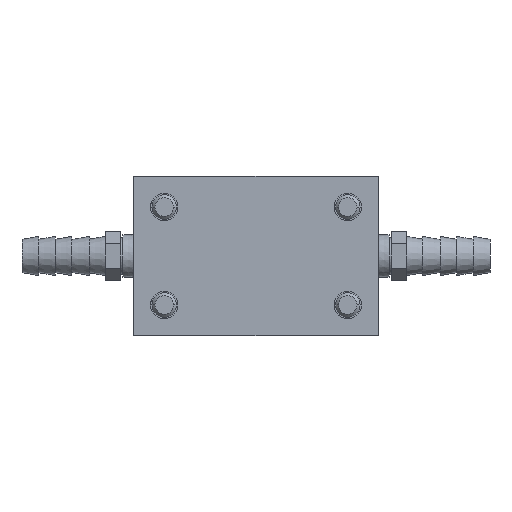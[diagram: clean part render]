
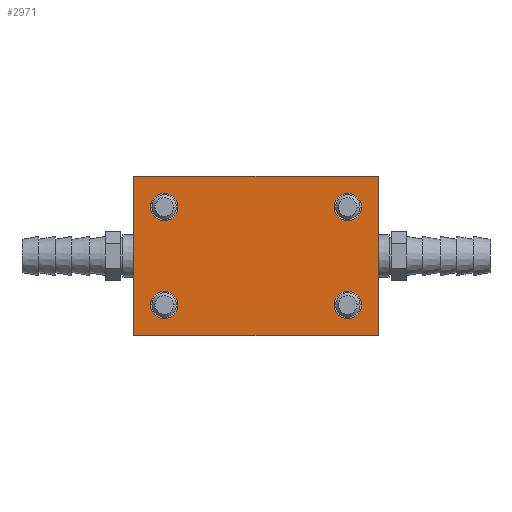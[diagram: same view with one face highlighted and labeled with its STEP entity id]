
A CAD part, left-side view. The second image highlights one B-rep face of the part: STEP entity #2971.
In plain terms, the highlighted planar face has unit normal (-1, 0, 0).
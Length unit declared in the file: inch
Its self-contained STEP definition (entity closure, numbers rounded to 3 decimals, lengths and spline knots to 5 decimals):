
#2709=CARTESIAN_POINT('',(-3.75,-0.9375,-0.5));
#2710=DIRECTION('',(1.,0.,0.));
#2711=DIRECTION('',(0.,-1.,0.));
#2712=AXIS2_PLACEMENT_3D('',#2709,#2710,#2711);
#2714=CARTESIAN_POINT('',(-3.75,-0.9375,-0.5));
#2715=DIRECTION('',(1.,0.,0.));
#2716=DIRECTION('',(0.,1.,0.));
#2717=AXIS2_PLACEMENT_3D('',#2714,#2715,#2716);
#2719=CARTESIAN_POINT('',(-3.75,0.9375,-0.5));
#2720=DIRECTION('',(1.,0.,0.));
#2721=DIRECTION('',(0.,-1.,0.));
#2722=AXIS2_PLACEMENT_3D('',#2719,#2720,#2721);
#2724=CARTESIAN_POINT('',(-3.75,0.9375,-0.5));
#2725=DIRECTION('',(1.,0.,0.));
#2726=DIRECTION('',(0.,1.,0.));
#2727=AXIS2_PLACEMENT_3D('',#2724,#2725,#2726);
#2729=CARTESIAN_POINT('',(-3.75,0.9375,0.5));
#2730=DIRECTION('',(1.,0.,0.));
#2731=DIRECTION('',(0.,-1.,0.));
#2732=AXIS2_PLACEMENT_3D('',#2729,#2730,#2731);
#2734=CARTESIAN_POINT('',(-3.75,0.9375,0.5));
#2735=DIRECTION('',(1.,0.,0.));
#2736=DIRECTION('',(0.,1.,0.));
#2737=AXIS2_PLACEMENT_3D('',#2734,#2735,#2736);
#2739=CARTESIAN_POINT('',(-3.75,-0.9375,0.5));
#2740=DIRECTION('',(1.,0.,0.));
#2741=DIRECTION('',(0.,-1.,0.));
#2742=AXIS2_PLACEMENT_3D('',#2739,#2740,#2741);
#2744=CARTESIAN_POINT('',(-3.75,-0.9375,0.5));
#2745=DIRECTION('',(1.,0.,0.));
#2746=DIRECTION('',(0.,1.,0.));
#2747=AXIS2_PLACEMENT_3D('',#2744,#2745,#2746);
#2841=DIRECTION('',(0.,0.,-1.));
#2842=VECTOR('',#2841,1.625);
#2843=CARTESIAN_POINT('',(-3.75,-1.25,0.8125));
#2844=LINE('',#2843,#2842);
#2849=DIRECTION('',(0.,1.,0.));
#2850=VECTOR('',#2849,2.5);
#2851=CARTESIAN_POINT('',(-3.75,-1.25,-0.8125));
#2852=LINE('',#2851,#2850);
#2853=DIRECTION('',(0.,0.,1.));
#2854=VECTOR('',#2853,1.625);
#2855=CARTESIAN_POINT('',(-3.75,1.25,-0.8125));
#2856=LINE('',#2855,#2854);
#2861=DIRECTION('',(0.,-1.,0.));
#2862=VECTOR('',#2861,2.5);
#2863=CARTESIAN_POINT('',(-3.75,1.25,0.8125));
#2864=LINE('',#2863,#2862);
#2873=CARTESIAN_POINT('',(-3.75,-1.25,-0.8125));
#2874=CARTESIAN_POINT('',(-3.75,1.25,-0.8125));
#2875=VERTEX_POINT('',#2873);
#2876=VERTEX_POINT('',#2874);
#2879=CARTESIAN_POINT('',(-3.75,-1.25,0.8125));
#2880=VERTEX_POINT('',#2879);
#2881=CARTESIAN_POINT('',(-3.75,1.25,0.8125));
#2882=VERTEX_POINT('',#2881);
#2885=CARTESIAN_POINT('',(-3.75,1.07813,0.5));
#2887=VERTEX_POINT('',#2885);
#2889=CARTESIAN_POINT('',(-3.75,0.79688,0.5));
#2891=VERTEX_POINT('',#2889);
#2893=CARTESIAN_POINT('',(-3.75,-0.79688,0.5));
#2895=VERTEX_POINT('',#2893);
#2897=CARTESIAN_POINT('',(-3.75,-1.07813,0.5));
#2899=VERTEX_POINT('',#2897);
#2901=CARTESIAN_POINT('',(-3.75,1.07813,-0.5));
#2903=VERTEX_POINT('',#2901);
#2905=CARTESIAN_POINT('',(-3.75,0.79688,-0.5));
#2907=VERTEX_POINT('',#2905);
#2909=CARTESIAN_POINT('',(-3.75,-0.79688,-0.5));
#2911=VERTEX_POINT('',#2909);
#2913=CARTESIAN_POINT('',(-3.75,-1.07813,-0.5));
#2915=VERTEX_POINT('',#2913);
#2933=CARTESIAN_POINT('',(-3.75,0.,0.));
#2934=DIRECTION('',(1.,0.,0.));
#2935=DIRECTION('',(0.,-1.,0.));
#2936=AXIS2_PLACEMENT_3D('',#2933,#2934,#2935);
#2937=PLANE('',#2936);
#2939=ORIENTED_EDGE('',*,*,#2938,.T.);
#2941=ORIENTED_EDGE('',*,*,#2940,.T.);
#2943=ORIENTED_EDGE('',*,*,#2942,.T.);
#2945=ORIENTED_EDGE('',*,*,#2944,.T.);
#2946=EDGE_LOOP('',(#2939,#2941,#2943,#2945));
#2947=FACE_OUTER_BOUND('',#2946,.F.);
#2949=ORIENTED_EDGE('',*,*,#2948,.F.);
#2951=ORIENTED_EDGE('',*,*,#2950,.F.);
#2952=EDGE_LOOP('',(#2949,#2951));
#2953=FACE_BOUND('',#2952,.F.);
#2954=ORIENTED_EDGE('',*,*,#2922,.F.);
#2956=ORIENTED_EDGE('',*,*,#2955,.F.);
#2957=EDGE_LOOP('',(#2954,#2956));
#2958=FACE_BOUND('',#2957,.F.);
#2960=ORIENTED_EDGE('',*,*,#2959,.F.);
#2962=ORIENTED_EDGE('',*,*,#2961,.F.);
#2963=EDGE_LOOP('',(#2960,#2962));
#2964=FACE_BOUND('',#2963,.F.);
#2966=ORIENTED_EDGE('',*,*,#2965,.F.);
#2968=ORIENTED_EDGE('',*,*,#2967,.F.);
#2969=EDGE_LOOP('',(#2966,#2968));
#2970=FACE_BOUND('',#2969,.F.);
#2713=CIRCLE('',#2712,0.14063);
#2718=CIRCLE('',#2717,0.14063);
#2723=CIRCLE('',#2722,0.14063);
#2728=CIRCLE('',#2727,0.14063);
#2733=CIRCLE('',#2732,0.14063);
#2738=CIRCLE('',#2737,0.14063);
#2743=CIRCLE('',#2742,0.14063);
#2748=CIRCLE('',#2747,0.14063);
#2922=EDGE_CURVE('',#2891,#2887,#2733,.T.);
#2938=EDGE_CURVE('',#2875,#2876,#2852,.T.);
#2940=EDGE_CURVE('',#2876,#2882,#2856,.T.);
#2942=EDGE_CURVE('',#2882,#2880,#2864,.T.);
#2944=EDGE_CURVE('',#2880,#2875,#2844,.T.);
#2948=EDGE_CURVE('',#2907,#2903,#2723,.T.);
#2950=EDGE_CURVE('',#2903,#2907,#2728,.T.);
#2955=EDGE_CURVE('',#2887,#2891,#2738,.T.);
#2959=EDGE_CURVE('',#2899,#2895,#2743,.T.);
#2961=EDGE_CURVE('',#2895,#2899,#2748,.T.);
#2965=EDGE_CURVE('',#2915,#2911,#2713,.T.);
#2967=EDGE_CURVE('',#2911,#2915,#2718,.T.);
#2971=ADVANCED_FACE('',(#2947,#2953,#2958,#2964,#2970),#2937,.F.);
